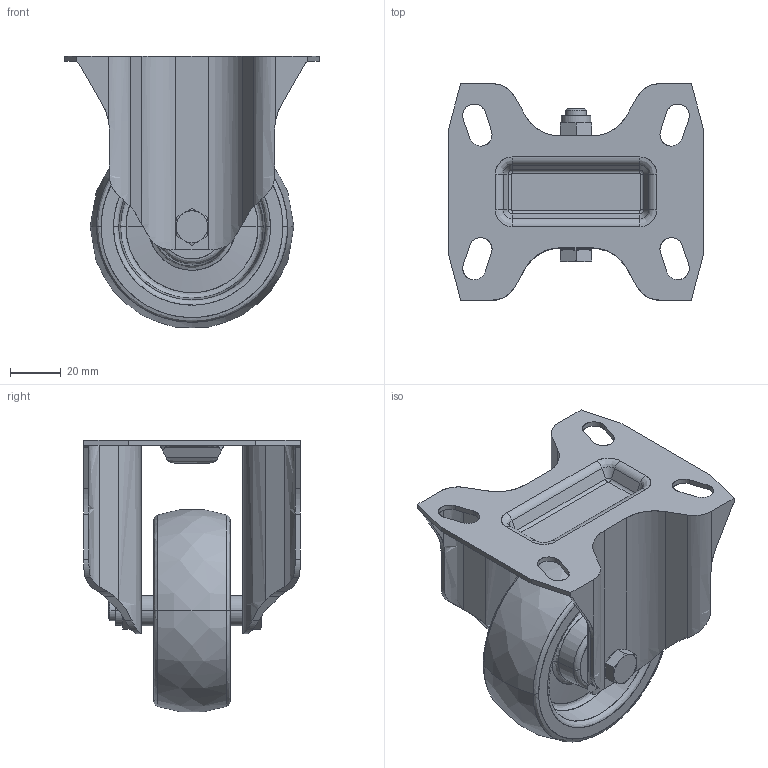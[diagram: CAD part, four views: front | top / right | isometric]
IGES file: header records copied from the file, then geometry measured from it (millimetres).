
Start section: SolidWorks IGES file using analytic representation for surfaces
Global section: file name: X:\11_SW2020-Inv2020\00_全2021-11新製品まで\c\CAG1-080PBL\cag1-080pbl.IGS; native system: SolidWorks 2020; preprocessor: SolidWorks 2020; author: ImaoCorp; date: 211026.082621; units: millimetre
Bounding box: 100 x 85 x 106.73 mm (x, y, z)
Surface area: 59307.4 mm2 (no closed solid volume)
Topology: 0 solids, 0 shells, 239 faces, 2996 edges, 2996 vertices
Faces by surface type: revolution 122, bspline 117
